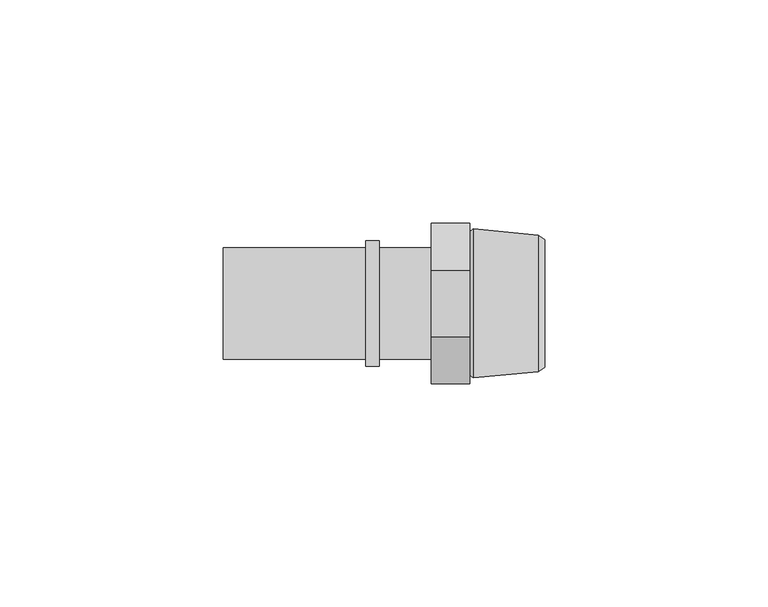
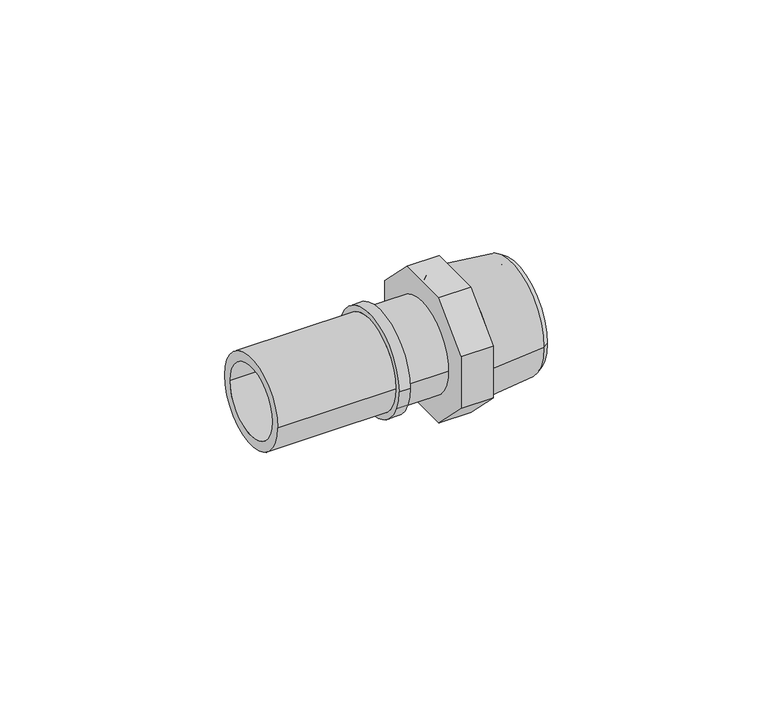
"""IFC4 building model written with IfcOpenShell, lengths in millimetres: pipe fitting geometry, FASTLOC_Adapter_LX, with external thread : FSL A C external PL."""

from ifc_helpers import new_model, si_unit, frame, origin, place, context, project, spatial, polyline, circle_curve, outline, extrude, source, transform, mapped, element, save
from ifc_brep_helpers import plane_surface, cylinder_surface, revolved_surface, advanced_brep


def pipe_fitting_c58ddc77(model_context):
    return source(origin(), model_context, "Body", "SolidModel", [
        extrude(outline(polyline([(-18.0, 7.4558441), (-7.4558441, 18.0), (7.4558441, 18.0), (18.0, 7.4558441), (18.0, -7.4558441), (7.4558441, -18.0), (-7.4558441, -18.0), (-18.0, -7.4558441), (-18.0, 7.4558441)])), frame((0.0, 0.0, 0.0), z_axis=(1.0, 0.0, 0.0), x_axis=(0.0, 1.0, 0.0)), (0.0, 0.0, 1.0), 8.7),
        advanced_brep(
        [(9.8032803, 12.0, 0.0), (9.8032803, -12.0, 0.0), (25.5, -12.0, 0.0), (25.5, 12.0, 0.0), (8.7, 10.8967197, 0.0), (8.7, -10.8967197, 0.0), (9.4406902, 16.7, 0.0), (9.4406902, -16.7, 0.0), (8.7, -16.1, 0.0), (8.7, 16.1, 0.0), (24.0000007, 15.3, 0.0), (24.0000007, -15.3, 0.0), (25.5, 14.3, 0.0), (25.5, -14.3, 0.0)],
        [
            (0, 1, circle_curve(frame((9.8032803, 0.0, 0.0), z_axis=(-1.0, 0.0, 0.0), x_axis=(0.0, -1.0, 0.0)), 12.0)),
            (1, 2),
            (2, 3, circle_curve(frame((25.5, 0.0, 0.0), z_axis=(1.0, 0.0, 0.0), x_axis=(0.0, -1.0, 0.0)), 12.0)),
            (3, 0),
            (4, 5, circle_curve(frame((8.7, 0.0, 0.0), z_axis=(-1.0, 0.0, 0.0), x_axis=(0.0, -1.0, 0.0)), 10.8967197)),
            (5, 1),
            (0, 4),
            (6, 7, circle_curve(frame((9.4406902, 0.0, 0.0), z_axis=(-1.0, 0.0, 0.0), x_axis=(0.0, -1.0, 0.0)), 16.7)),
            (7, 8),
            (8, 9, circle_curve(frame((8.7, 0.0, 0.0), z_axis=(1.0, 0.0, 0.0), x_axis=(0.0, -1.0, 0.0)), 16.1)),
            (9, 6),
            (10, 11, circle_curve(frame((24.0000007, 0.0, 0.0), z_axis=(-1.0, 0.0, 0.0), x_axis=(0.0, -1.0, 0.0)), 15.3)),
            (11, 7),
            (6, 10),
            (12, 13, circle_curve(frame((25.5, 0.0, 0.0), z_axis=(-1.0, 0.0, 0.0), x_axis=(0.0, -1.0, 0.0)), 14.3)),
            (13, 11),
            (10, 12),
            (1, 0, circle_curve(frame((9.8032803, 0.0, 0.0), z_axis=(-1.0, 0.0, 0.0), x_axis=(0.0, 1.0, 0.0)), 12.0)),
            (3, 2, circle_curve(frame((25.5, 0.0, 0.0), z_axis=(1.0, 0.0, 0.0), x_axis=(0.0, 1.0, 0.0)), 12.0)),
            (5, 4, circle_curve(frame((8.7, 0.0, 0.0), z_axis=(-1.0, 0.0, 0.0), x_axis=(0.0, 1.0, 0.0)), 10.8967197)),
            (8, 9, circle_curve(frame((8.7, 0.0, 0.0), z_axis=(-1.0, 0.0, 0.0), x_axis=(0.0, 1.0, 0.0)), 16.1)),
            (7, 6, circle_curve(frame((9.4406902, 0.0, 0.0), z_axis=(-1.0, 0.0, 0.0), x_axis=(0.0, 1.0, 0.0)), 16.7)),
            (11, 10, circle_curve(frame((24.0000007, 0.0, 0.0), z_axis=(-1.0, 0.0, 0.0), x_axis=(0.0, 1.0, 0.0)), 15.3)),
            (13, 12, circle_curve(frame((25.5, 0.0, 0.0), z_axis=(-1.0, 0.0, 0.0), x_axis=(0.0, 1.0, 0.0)), 14.3)),
        ],
        [
            revolved_surface(polyline([(25.5, -12.0, 0.0), (9.8032803, -12.0, 0.0)]), (0.0, 0.0, 0.0), (1.0, 0.0, 0.0)),
            revolved_surface(polyline([(9.8032803, -12.0, 0.0), (8.7, -10.8967197, 0.0)]), (0.0, 0.0, 0.0), (1.0, 0.0, 0.0)),
            revolved_surface(polyline([(8.7, -16.1, 0.0), (9.4406902, -16.7, 0.0)]), (0.0, 0.0, 0.0), (1.0, 0.0, 0.0)),
            revolved_surface(polyline([(9.4406902, -16.7, 0.0), (24.0000007, -15.3, 0.0)]), (0.0, 0.0, 0.0), (1.0, 0.0, 0.0)),
            revolved_surface(polyline([(24.0000007, -15.3, 0.0), (25.5, -14.3, 0.0)]), (0.0, 0.0, 0.0), (1.0, 0.0, 0.0)),
            revolved_surface(polyline([(25.5, 12.0, 0.0), (9.8032803, 12.0, 0.0)]), (0.0, 0.0, 0.0), (1.0, 0.0, 0.0)),
            revolved_surface(polyline([(9.8032803, 12.0, 0.0), (8.7, 10.8967197, 0.0)]), (0.0, 0.0, 0.0), (1.0, 0.0, 0.0)),
            plane_surface(frame((8.7, 0.0, 0.0), z_axis=(-1.0, 0.0, 0.0), x_axis=(0.0, 1.0, 0.0))),
            revolved_surface(polyline([(8.7, 16.1, 0.0), (9.4406902, 16.7, 0.0)]), (0.0, 0.0, 0.0), (1.0, 0.0, 0.0)),
            revolved_surface(polyline([(9.4406902, 16.7, 0.0), (24.0000007, 15.3, 0.0)]), (0.0, 0.0, 0.0), (1.0, 0.0, 0.0)),
            revolved_surface(polyline([(24.0000007, 15.3, 0.0), (25.5, 14.3, 0.0)]), (0.0, 0.0, 0.0), (1.0, 0.0, 0.0)),
            plane_surface(frame((25.5, 0.0, 0.0), z_axis=(1.0, 0.0, 0.0), x_axis=(0.0, 1.0, 0.0))),
        ],
        [
            (0, [[1, 2, 3, 4]]),
            (1, [[5, 6, -1, 7]]),
            (2, [[8, 9, 10, 11]]),
            (3, [[12, 13, -8, 14]]),
            (4, [[15, 16, -12, 17]]),
            (5, [[18, -4, 19, -2]]),
            (6, [[20, -7, -18, -6]]),
            (7, [[21, -10], [-20, -5]]),
            (8, [[22, -11, -21, -9]]),
            (9, [[23, -14, -22, -13]]),
            (10, [[24, -17, -23, -16]]),
            (11, [[-24, -15], [-19, -3]]),
        ],
    ),
        advanced_brep(
        [(-14.6, 12.5, 0.0), (-14.6, -12.5, 0.0), (-46.6, -12.5, 0.0), (-46.6, 12.5, 0.0), (-11.6, 14.1, 0.0), (-11.6, -14.1, 0.0), (-14.6, -14.1, 0.0), (-14.6, 14.1, 0.0), (0.0, 12.5, 0.0), (0.0, -12.5, 0.0), (-11.6, -12.5, 0.0), (-11.6, 12.5, 0.0), (-46.6, 9.85, 0.0), (-46.6, -9.85, 0.0), (0.0, -9.85, 0.0), (0.0, 9.85, 0.0)],
        [
            (0, 1, circle_curve(frame((-14.6, 0.0, 0.0), z_axis=(-1.0, 0.0, 0.0), x_axis=(0.0, -1.0, 0.0)), 12.5)),
            (1, 2),
            (2, 3, circle_curve(frame((-46.6, 0.0, 0.0), z_axis=(1.0, 0.0, 0.0), x_axis=(0.0, -1.0, 0.0)), 12.5)),
            (3, 0),
            (4, 5, circle_curve(frame((-11.6, 0.0, 0.0), z_axis=(-1.0, 0.0, 0.0), x_axis=(0.0, -1.0, 0.0)), 14.1)),
            (5, 6),
            (6, 7, circle_curve(frame((-14.6, 0.0, 0.0), z_axis=(1.0, 0.0, 0.0), x_axis=(0.0, -1.0, 0.0)), 14.1)),
            (7, 4),
            (8, 9, circle_curve(frame((0.0, 0.0, 0.0), z_axis=(-1.0, 0.0, 0.0), x_axis=(0.0, -1.0, 0.0)), 12.5)),
            (9, 10),
            (10, 11, circle_curve(frame((-11.6, 0.0, 0.0), z_axis=(1.0, 0.0, 0.0), x_axis=(0.0, -1.0, 0.0)), 12.5)),
            (11, 8),
            (12, 13, circle_curve(frame((-46.6, 0.0, 0.0), z_axis=(-1.0, 0.0, 0.0), x_axis=(0.0, -1.0, 0.0)), 9.85)),
            (13, 14),
            (14, 15, circle_curve(frame((0.0, 0.0, 0.0), z_axis=(1.0, 0.0, 0.0), x_axis=(0.0, -1.0, 0.0)), 9.85)),
            (15, 12),
            (2, 3, circle_curve(frame((-46.6, 0.0, 0.0), z_axis=(-1.0, 0.0, 0.0), x_axis=(0.0, 1.0, 0.0)), 12.5)),
            (12, 13, circle_curve(frame((-46.6, 0.0, 0.0), z_axis=(1.0, 0.0, 0.0), x_axis=(0.0, 1.0, 0.0)), 9.85)),
            (1, 0, circle_curve(frame((-14.6, 0.0, 0.0), z_axis=(-1.0, 0.0, 0.0), x_axis=(0.0, 1.0, 0.0)), 12.5)),
            (6, 7, circle_curve(frame((-14.6, 0.0, 0.0), z_axis=(-1.0, 0.0, 0.0), x_axis=(0.0, 1.0, 0.0)), 14.1)),
            (5, 4, circle_curve(frame((-11.6, 0.0, 0.0), z_axis=(-1.0, 0.0, 0.0), x_axis=(0.0, 1.0, 0.0)), 14.1)),
            (10, 11, circle_curve(frame((-11.6, 0.0, 0.0), z_axis=(-1.0, 0.0, 0.0), x_axis=(0.0, 1.0, 0.0)), 12.5)),
            (9, 8, circle_curve(frame((0.0, 0.0, 0.0), z_axis=(-1.0, 0.0, 0.0), x_axis=(0.0, 1.0, 0.0)), 12.5)),
            (14, 15, circle_curve(frame((0.0, 0.0, 0.0), z_axis=(-1.0, 0.0, 0.0), x_axis=(0.0, 1.0, 0.0)), 9.85)),
        ],
        [
            cylinder_surface(frame((0.0, 0.0, 0.0), z_axis=(1.0, 0.0, 0.0), x_axis=(0.0, -1.0, 0.0)), 12.5),
            cylinder_surface(frame((0.0, 0.0, 0.0), z_axis=(1.0, 0.0, 0.0), x_axis=(0.0, -1.0, 0.0)), 14.1),
            revolved_surface(polyline([(0.0, -9.85, 0.0), (-46.6, -9.85, 0.0)]), (0.0, 0.0, 0.0), (1.0, 0.0, 0.0)),
            plane_surface(frame((-46.6, 0.0, 0.0), z_axis=(-1.0, 0.0, 0.0), x_axis=(0.0, 1.0, 0.0))),
            cylinder_surface(frame((0.0, 0.0, 0.0), z_axis=(1.0, 0.0, 0.0), x_axis=(0.0, 1.0, 0.0)), 12.5),
            plane_surface(frame((-14.6, 0.0, 0.0), z_axis=(-1.0, 0.0, 0.0), x_axis=(0.0, 1.0, 0.0))),
            cylinder_surface(frame((0.0, 0.0, 0.0), z_axis=(1.0, 0.0, 0.0), x_axis=(0.0, 1.0, 0.0)), 14.1),
            plane_surface(frame((-11.6, 0.0, 0.0), z_axis=(1.0, 0.0, 0.0), x_axis=(0.0, 1.0, 0.0))),
            plane_surface(frame((0.0, 0.0, 0.0), z_axis=(1.0, 0.0, 0.0), x_axis=(0.0, 1.0, 0.0))),
            revolved_surface(polyline([(0.0, 9.85, 0.0), (-46.6, 9.85, 0.0)]), (0.0, 0.0, 0.0), (1.0, 0.0, 0.0)),
        ],
        [
            (0, [[1, 2, 3, 4]]),
            (1, [[5, 6, 7, 8]]),
            (0, [[9, 10, 11, 12]]),
            (2, [[13, 14, 15, 16]]),
            (3, [[17, -3], [18, -13]]),
            (4, [[19, -4, -17, -2]]),
            (5, [[20, -7], [-19, -1]]),
            (6, [[21, -8, -20, -6]]),
            (7, [[-21, -5], [22, -11]]),
            (4, [[23, -12, -22, -10]]),
            (8, [[-23, -9], [24, -15]]),
            (9, [[-18, -16, -24, -14]]),
        ],
    ),
    ])


if __name__ == "__main__":
    model = new_model("IFC4")
    model_context = context("Model", 3, world=origin())
    ifc_project = project(units=[si_unit("LENGTHUNIT", "METRE", prefix="MILLI")], contexts=[model_context])
    site = spatial("IfcSite", under=ifc_project)
    building = spatial("IfcBuilding", under=site)
    placement = place(None, origin())
    pipe_fitting_shape = pipe_fitting_c58ddc77(model_context)
    element("IfcPipeFitting", 1, ObjectType="FASTLOC_Adapter_LX, with external thread : FSL A C external PL", at=placement, inside=building, context=model_context, shape_type="MappedRepresentation", body=[
        mapped(pipe_fitting_shape, transform((0.0, 0.0, 0.0), x_axis=(1.0, 0.0, 0.0), y_axis=(0.0, 1.0, 0.0), z_axis=(0.0, 0.0, 1.0))),
    ])
    save(model, "model.ifc")
